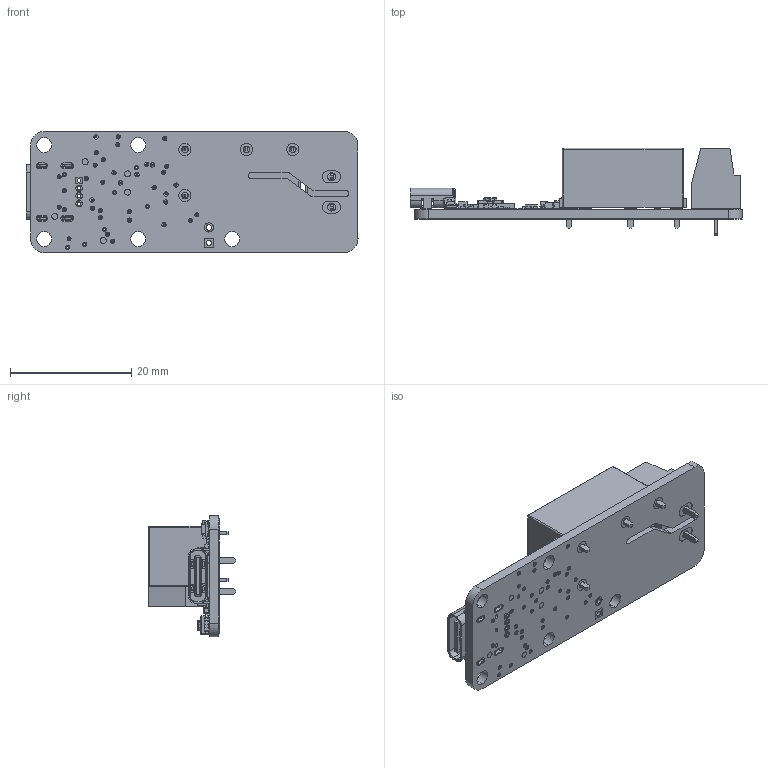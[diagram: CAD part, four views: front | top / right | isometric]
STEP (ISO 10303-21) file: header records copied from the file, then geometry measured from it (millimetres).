
FILE_DESCRIPTION (( 'STEP AP214' ), '1' );
FILE_NAME ('LTCHRL2C.STEP', '2025-07-23T11:28:19', ( '' ), ( '' ), 'SwSTEP 2.0', 'SolidWorks 2008', '' );
FILE_SCHEMA (( 'AUTOMOTIVE_DESIGN' ));
Length unit declared in the file: millimetre
Products named in the file (28): PCB; C2; C7; C16; C19; FRAM1; P2; C18; T4; R12; R13; R14; R23; T2; led1outB; REG1; R2; YLED; R4; USB1; LTCHRL2C; Relay1; U1; R1; R11; SW2; sens1; PVSS
Assembly tree (40 placements, depth 2):
  LTCHRL2C
    U1
    C7  x5
    R13  x2
    R14
    C2
    C19
    PCB
    R11  x6
    R1
    R12
    C16
    R2
    SW2  x2
    C18
    YLED
    P2
    T2  x2
    FRAM1
    led1outB
    Relay1
    sens1
    R23  x2
    T4  x2
    USB1
    R4
    REG1
  PVSS
Bounding box: 54.75 x 14.41 x 20.02 mm (x, y, z)
Volume: 4463.7 mm3; surface area: 5200 mm2
Topology: 48 solids, 48 shells, 6704 faces, 17714 edges, 11594 vertices
Faces by surface type: plane 4345, cylinder 1424, bspline 831, sphere 76, torus 14, cone 14
Entity records: 267588 total; most frequent: CARTESIAN_POINT 75500, ORIENTED_EDGE 29694, DIRECTION 25790, EDGE_CURVE 14847, VECTOR 10864, LINE 10864, VERTEX_POINT 9791, AXIS2_PLACEMENT_3D 7463
